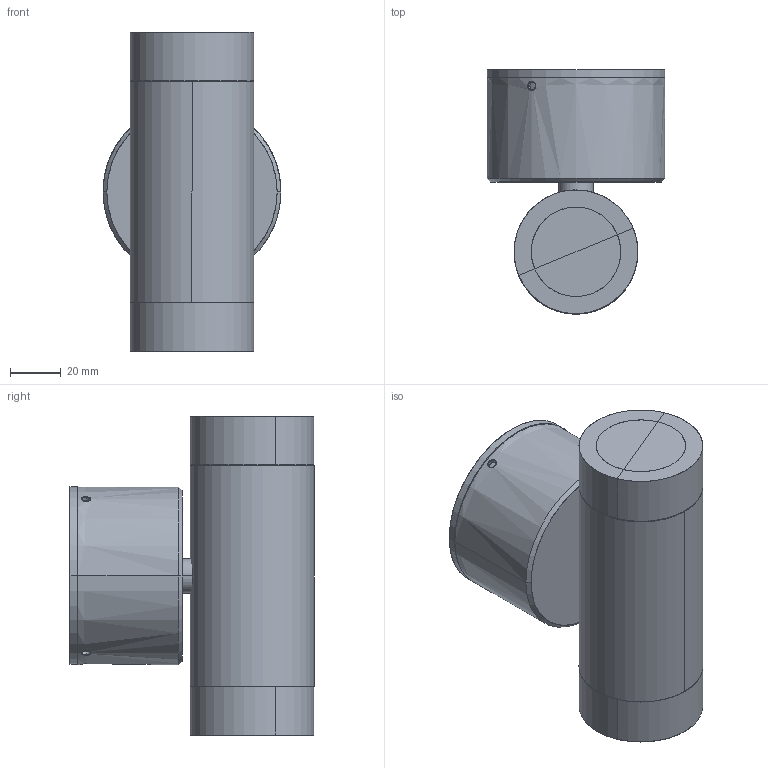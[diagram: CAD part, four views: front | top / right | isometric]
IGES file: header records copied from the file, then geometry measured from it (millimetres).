
Start section: SolidWorks IGES file using analytic representation for surfaces
Global section: file name: L:\Tecnico_PMT\R&D\PROGETTI ROADMAP 2020\001-OUTDOOR SPOTS\FAMIGLIA IP6X\LUX W\SOLIDWORKS\LUX W-D 3D.IGS; native system: SolidWorks 2016; preprocessor: SolidWorks 2016; author: MariaMancini; date: 210510.121003; units: millimetre
Bounding box: 70 x 96.01 x 125.74 mm (x, y, z)
Surface area: 86804.2 mm2 (no closed solid volume)
Topology: 0 solids, 0 shells, 103 faces, 2628 edges, 2624 vertices
Faces by surface type: revolution 74, bspline 29
